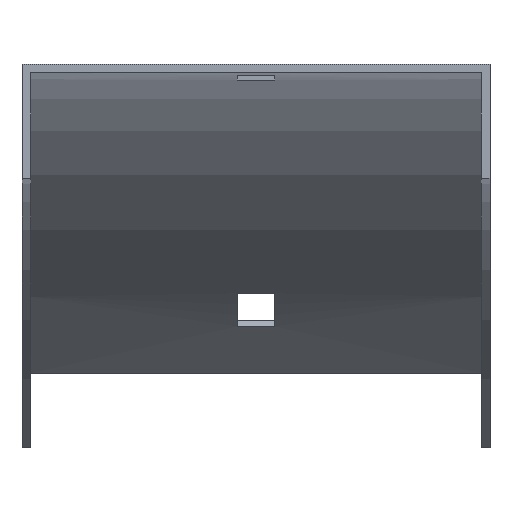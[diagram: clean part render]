
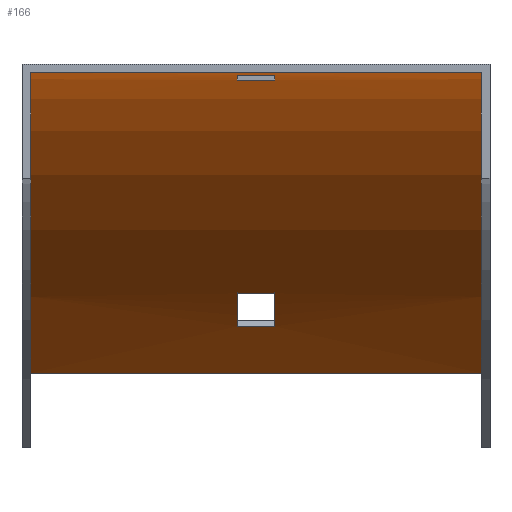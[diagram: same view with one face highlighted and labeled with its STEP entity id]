
A CAD part, top view. The second image highlights one B-rep face of the part: STEP entity #166.
In plain terms, the highlighted cylindrical face has radius 179 mm (diameter 358 mm), a partial arc.
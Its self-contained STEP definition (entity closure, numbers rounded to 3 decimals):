
#4 = CARTESIAN_POINT ( 'NONE',  ( 3.25, -39.953, -110.849 ) ) ;
#5 = CIRCLE ( 'NONE', #514, 179. ) ;
#7 = VERTEX_POINT ( 'NONE', #4 ) ;
#8 = VERTEX_POINT ( 'NONE', #195 ) ;
#20 = CARTESIAN_POINT ( 'NONE',  ( -3.25, -39.953, -110.849 ) ) ;
#24 = CARTESIAN_POINT ( 'NONE',  ( -3.25, -1.903, -12. ) ) ;
#26 = VERTEX_POINT ( 'NONE', #108 ) ;
#32 = DIRECTION ( 'NONE',  ( 0., 0., 1. ) ) ;
#33 = EDGE_CURVE ( 'NONE', #8, #119, #295, .T. ) ;
#35 = ORIENTED_EDGE ( 'NONE', *, *, #42, .T. ) ;
#42 = EDGE_CURVE ( 'NONE', #448, #134, #5, .T. ) ;
#44 = LINE ( 'NONE', #591, #426 ) ;
#50 = ORIENTED_EDGE ( 'NONE', *, *, #330, .F. ) ;
#59 = VERTEX_POINT ( 'NONE', #343 ) ;
#63 = LINE ( 'NONE', #111, #522 ) ;
#64 = ORIENTED_EDGE ( 'NONE', *, *, #255, .F. ) ;
#74 = FACE_OUTER_BOUND ( 'NONE', #451, .T. ) ;
#83 = ORIENTED_EDGE ( 'NONE', *, *, #311, .T. ) ;
#85 = CARTESIAN_POINT ( 'NONE',  ( -3.25, -2.736, -21. ) ) ;
#86 = DIRECTION ( 'NONE',  ( 1., 0., 0. ) ) ;
#87 = CARTESIAN_POINT ( 'NONE',  ( 41., -180.5, 0. ) ) ;
#105 = EDGE_CURVE ( 'NONE', #548, #59, #63, .T. ) ;
#108 = CARTESIAN_POINT ( 'NONE',  ( -39.5, -1.5, 0. ) ) ;
#111 = CARTESIAN_POINT ( 'NONE',  ( 39.5, -53.928, -126.572 ) ) ;
#112 = EDGE_CURVE ( 'NONE', #535, #26, #438, .T. ) ;
#114 = AXIS2_PLACEMENT_3D ( 'NONE', #345, #434, #571 ) ;
#118 = FACE_BOUND ( 'NONE', #215, .T. ) ;
#119 = VERTEX_POINT ( 'NONE', #24 ) ;
#121 = CARTESIAN_POINT ( 'NONE',  ( 39.5, -1.5, 0. ) ) ;
#133 = CARTESIAN_POINT ( 'NONE',  ( 41., -45.727, -117.802 ) ) ;
#134 = VERTEX_POINT ( 'NONE', #20 ) ;
#138 = DIRECTION ( 'NONE',  ( -1., 0., 0. ) ) ;
#142 = VECTOR ( 'NONE', #530, 1000. ) ;
#145 = DIRECTION ( 'NONE',  ( 1., 0., 0. ) ) ;
#152 = VECTOR ( 'NONE', #353, 1000. ) ;
#161 = LINE ( 'NONE', #389, #152 ) ;
#164 = EDGE_CURVE ( 'NONE', #134, #7, #161, .T. ) ;
#165 = ORIENTED_EDGE ( 'NONE', *, *, #590, .T. ) ;
#166 = ADVANCED_FACE ( 'NONE', ( #118, #74, #355 ), #178, .F. ) ;
#174 = DIRECTION ( 'NONE',  ( -1., 0., 0. ) ) ;
#177 = CARTESIAN_POINT ( 'NONE',  ( 39.5, -53.928, -126.572 ) ) ;
#178 = CYLINDRICAL_SURFACE ( 'NONE', #569, 179. ) ;
#185 = DIRECTION ( 'NONE',  ( 0., 0., 1. ) ) ;
#186 = ORIENTED_EDGE ( 'NONE', *, *, #105, .F. ) ;
#190 = CARTESIAN_POINT ( 'NONE',  ( 41., -1.903, -12. ) ) ;
#195 = CARTESIAN_POINT ( 'NONE',  ( 3.25, -1.903, -12. ) ) ;
#212 = EDGE_LOOP ( 'NONE', ( #165, #35, #297, #400 ) ) ;
#215 = EDGE_LOOP ( 'NONE', ( #64, #409, #50, #570 ) ) ;
#240 = LINE ( 'NONE', #133, #417 ) ;
#242 = CIRCLE ( 'NONE', #296, 179. ) ;
#243 = CIRCLE ( 'NONE', #309, 179. ) ;
#255 = EDGE_CURVE ( 'NONE', #119, #260, #242, .T. ) ;
#258 = DIRECTION ( 'NONE',  ( 1., 0., 0. ) ) ;
#260 = VERTEX_POINT ( 'NONE', #85 ) ;
#272 = CARTESIAN_POINT ( 'NONE',  ( 3.25, -180.5, 0. ) ) ;
#284 = CARTESIAN_POINT ( 'NONE',  ( 39.5, -180.5, 0. ) ) ;
#295 = LINE ( 'NONE', #190, #336 ) ;
#296 = AXIS2_PLACEMENT_3D ( 'NONE', #458, #174, #32 ) ;
#297 = ORIENTED_EDGE ( 'NONE', *, *, #164, .T. ) ;
#299 = CIRCLE ( 'NONE', #456, 179. ) ;
#308 = CARTESIAN_POINT ( 'NONE',  ( 39.5, -1.5, 0. ) ) ;
#309 = AXIS2_PLACEMENT_3D ( 'NONE', #272, #493, #452 ) ;
#311 = EDGE_CURVE ( 'NONE', #548, #535, #299, .T. ) ;
#330 = EDGE_CURVE ( 'NONE', #586, #8, #372, .T. ) ;
#331 = DIRECTION ( 'NONE',  ( 0., 0., -1. ) ) ;
#336 = VECTOR ( 'NONE', #478, 1000. ) ;
#343 = CARTESIAN_POINT ( 'NONE',  ( -39.5, -53.928, -126.572 ) ) ;
#345 = CARTESIAN_POINT ( 'NONE',  ( -39.5, -180.5, 0. ) ) ;
#353 = DIRECTION ( 'NONE',  ( 1., 0., 0. ) ) ;
#355 = FACE_BOUND ( 'NONE', #212, .T. ) ;
#360 = CARTESIAN_POINT ( 'NONE',  ( -3.25, -45.727, -117.802 ) ) ;
#372 = CIRCLE ( 'NONE', #581, 179. ) ;
#376 = ORIENTED_EDGE ( 'NONE', *, *, #112, .T. ) ;
#386 = DIRECTION ( 'NONE',  ( 0., 0., -1. ) ) ;
#387 = EDGE_CURVE ( 'NONE', #59, #26, #556, .T. ) ;
#389 = CARTESIAN_POINT ( 'NONE',  ( 41., -39.953, -110.849 ) ) ;
#400 = ORIENTED_EDGE ( 'NONE', *, *, #512, .T. ) ;
#409 = ORIENTED_EDGE ( 'NONE', *, *, #33, .F. ) ;
#413 = CARTESIAN_POINT ( 'NONE',  ( 3.25, -2.736, -21. ) ) ;
#416 = CARTESIAN_POINT ( 'NONE',  ( 3.25, -45.727, -117.802 ) ) ;
#417 = VECTOR ( 'NONE', #501, 1000. ) ;
#418 = ORIENTED_EDGE ( 'NONE', *, *, #387, .F. ) ;
#420 = DIRECTION ( 'NONE',  ( 1., 0., 0. ) ) ;
#426 = VECTOR ( 'NONE', #86, 1000. ) ;
#434 = DIRECTION ( 'NONE',  ( 1., 0., 0. ) ) ;
#438 = LINE ( 'NONE', #121, #142 ) ;
#448 = VERTEX_POINT ( 'NONE', #360 ) ;
#451 = EDGE_LOOP ( 'NONE', ( #418, #186, #83, #376 ) ) ;
#452 = DIRECTION ( 'NONE',  ( 0., 0., 1. ) ) ;
#456 = AXIS2_PLACEMENT_3D ( 'NONE', #284, #420, #468 ) ;
#458 = CARTESIAN_POINT ( 'NONE',  ( -3.25, -180.5, 0. ) ) ;
#468 = DIRECTION ( 'NONE',  ( 0., 0., 1. ) ) ;
#478 = DIRECTION ( 'NONE',  ( -1., 0., 0. ) ) ;
#485 = DIRECTION ( 'NONE',  ( -1., 0., 0. ) ) ;
#493 = DIRECTION ( 'NONE',  ( -1., 0., 0. ) ) ;
#501 = DIRECTION ( 'NONE',  ( -1., 0., 0. ) ) ;
#503 = EDGE_CURVE ( 'NONE', #260, #586, #44, .T. ) ;
#512 = EDGE_CURVE ( 'NONE', #7, #589, #243, .T. ) ;
#514 = AXIS2_PLACEMENT_3D ( 'NONE', #565, #258, #386 ) ;
#522 = VECTOR ( 'NONE', #485, 1000. ) ;
#530 = DIRECTION ( 'NONE',  ( -1., 0., 0. ) ) ;
#535 = VERTEX_POINT ( 'NONE', #308 ) ;
#548 = VERTEX_POINT ( 'NONE', #177 ) ;
#556 = CIRCLE ( 'NONE', #114, 179. ) ;
#565 = CARTESIAN_POINT ( 'NONE',  ( -3.25, -180.5, 0. ) ) ;
#569 = AXIS2_PLACEMENT_3D ( 'NONE', #87, #138, #185 ) ;
#570 = ORIENTED_EDGE ( 'NONE', *, *, #503, .F. ) ;
#571 = DIRECTION ( 'NONE',  ( 0., 0., 1. ) ) ;
#581 = AXIS2_PLACEMENT_3D ( 'NONE', #604, #145, #331 ) ;
#586 = VERTEX_POINT ( 'NONE', #413 ) ;
#589 = VERTEX_POINT ( 'NONE', #416 ) ;
#590 = EDGE_CURVE ( 'NONE', #589, #448, #240, .T. ) ;
#591 = CARTESIAN_POINT ( 'NONE',  ( 41., -2.736, -21. ) ) ;
#604 = CARTESIAN_POINT ( 'NONE',  ( 3.25, -180.5, 0. ) ) ;
